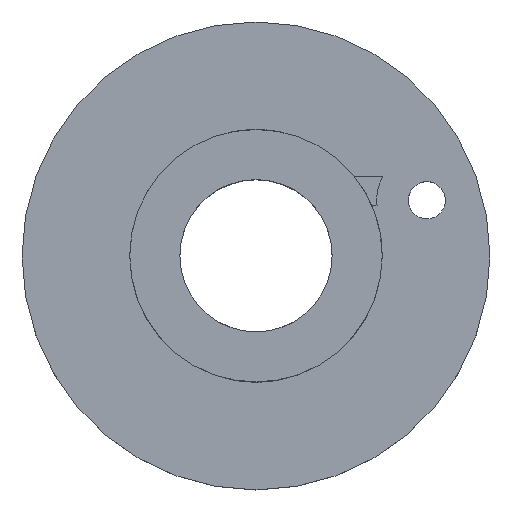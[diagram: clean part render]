
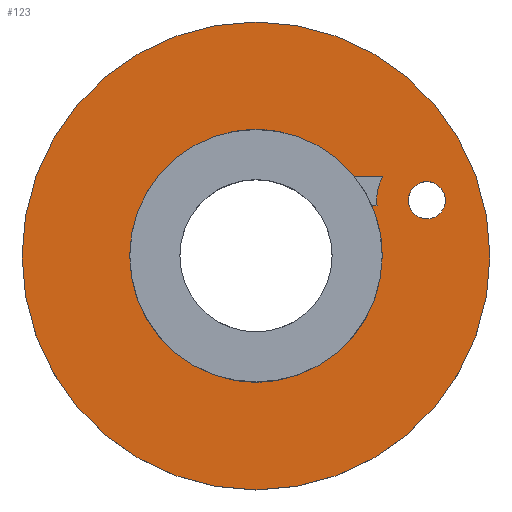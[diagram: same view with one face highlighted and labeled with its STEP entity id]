
A CAD part, top view. The second image highlights one B-rep face of the part: STEP entity #123.
In plain terms, the highlighted planar face has unit normal (0, 0, 1).
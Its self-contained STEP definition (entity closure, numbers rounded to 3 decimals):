
#39 = EDGE_CURVE('',#40,#40,#42,.T.);
#40 = VERTEX_POINT('',#41);
#41 = CARTESIAN_POINT('',(12.6,0.,-0.1));
#42 = SURFACE_CURVE('',#43,(#48,#60),.PCURVE_S1.);
#43 = CIRCLE('',#44,12.6);
#44 = AXIS2_PLACEMENT_3D('',#45,#46,#47);
#45 = CARTESIAN_POINT('',(0.,0.,-0.1));
#46 = DIRECTION('',(0.,0.,1.));
#47 = DIRECTION('',(1.,0.,-0.));
#48 = PCURVE('',#49,#54);
#49 = CYLINDRICAL_SURFACE('',#50,12.6);
#50 = AXIS2_PLACEMENT_3D('',#51,#52,#53);
#51 = CARTESIAN_POINT('',(0.,0.,-2.5));
#52 = DIRECTION('',(0.,0.,1.));
#53 = DIRECTION('',(1.,0.,-0.));
#54 = DEFINITIONAL_REPRESENTATION('',(#55),#59);
#55 = LINE('',#56,#57);
#56 = CARTESIAN_POINT('',(0.,2.4));
#57 = VECTOR('',#58,1.);
#58 = DIRECTION('',(1.,0.));
#59 = ( GEOMETRIC_REPRESENTATION_CONTEXT(2) 
PARAMETRIC_REPRESENTATION_CONTEXT() REPRESENTATION_CONTEXT('2D SPACE',''
  ) );
#60 = PCURVE('',#61,#66);
#61 = PLANE('',#62);
#62 = AXIS2_PLACEMENT_3D('',#63,#64,#65);
#63 = CARTESIAN_POINT('',(0.,0.,-0.1));
#64 = DIRECTION('',(0.,0.,1.));
#65 = DIRECTION('',(1.,0.,-0.));
#66 = DEFINITIONAL_REPRESENTATION('',(#67),#71);
#67 = CIRCLE('',#68,12.6);
#68 = AXIS2_PLACEMENT_2D('',#69,#70);
#69 = CARTESIAN_POINT('',(0.,0.));
#70 = DIRECTION('',(1.,0.));
#71 = ( GEOMETRIC_REPRESENTATION_CONTEXT(2) 
PARAMETRIC_REPRESENTATION_CONTEXT() REPRESENTATION_CONTEXT('2D SPACE',''
  ) );
#123 = ADVANCED_FACE('',(#124,#127,#267),#61,.T.);
#124 = FACE_BOUND('',#125,.T.);
#125 = EDGE_LOOP('',(#126));
#126 = ORIENTED_EDGE('',*,*,#39,.T.);
#127 = FACE_BOUND('',#128,.T.);
#128 = EDGE_LOOP('',(#129,#160,#184,#212,#241));
#129 = ORIENTED_EDGE('',*,*,#130,.F.);
#130 = EDGE_CURVE('',#131,#133,#135,.T.);
#131 = VERTEX_POINT('',#132);
#132 = CARTESIAN_POINT('',(6.8,0.,-0.1));
#133 = VERTEX_POINT('',#134);
#134 = CARTESIAN_POINT('',(6.241,2.7,-0.1));
#135 = SURFACE_CURVE('',#136,(#141,#148),.PCURVE_S1.);
#136 = CIRCLE('',#137,6.8);
#137 = AXIS2_PLACEMENT_3D('',#138,#139,#140);
#138 = CARTESIAN_POINT('',(0.,0.,-0.1));
#139 = DIRECTION('',(0.,0.,1.));
#140 = DIRECTION('',(1.,0.,-0.));
#141 = PCURVE('',#61,#142);
#142 = DEFINITIONAL_REPRESENTATION('',(#143),#147);
#143 = CIRCLE('',#144,6.8);
#144 = AXIS2_PLACEMENT_2D('',#145,#146);
#145 = CARTESIAN_POINT('',(0.,0.));
#146 = DIRECTION('',(1.,0.));
#147 = ( GEOMETRIC_REPRESENTATION_CONTEXT(2) 
PARAMETRIC_REPRESENTATION_CONTEXT() REPRESENTATION_CONTEXT('2D SPACE',''
  ) );
#148 = PCURVE('',#149,#154);
#149 = CYLINDRICAL_SURFACE('',#150,6.8);
#150 = AXIS2_PLACEMENT_3D('',#151,#152,#153);
#151 = CARTESIAN_POINT('',(0.,0.,-2.5));
#152 = DIRECTION('',(0.,0.,1.));
#153 = DIRECTION('',(1.,0.,-0.));
#154 = DEFINITIONAL_REPRESENTATION('',(#155),#159);
#155 = LINE('',#156,#157);
#156 = CARTESIAN_POINT('',(0.,2.4));
#157 = VECTOR('',#158,1.);
#158 = DIRECTION('',(1.,0.));
#159 = ( GEOMETRIC_REPRESENTATION_CONTEXT(2) 
PARAMETRIC_REPRESENTATION_CONTEXT() REPRESENTATION_CONTEXT('2D SPACE',''
  ) );
#160 = ORIENTED_EDGE('',*,*,#161,.F.);
#161 = EDGE_CURVE('',#162,#131,#164,.T.);
#162 = VERTEX_POINT('',#163);
#163 = CARTESIAN_POINT('',(5.268,4.3,-0.1));
#164 = SURFACE_CURVE('',#165,(#170,#177),.PCURVE_S1.);
#165 = CIRCLE('',#166,6.8);
#166 = AXIS2_PLACEMENT_3D('',#167,#168,#169);
#167 = CARTESIAN_POINT('',(0.,0.,-0.1));
#168 = DIRECTION('',(0.,0.,1.));
#169 = DIRECTION('',(1.,0.,-0.));
#170 = PCURVE('',#61,#171);
#171 = DEFINITIONAL_REPRESENTATION('',(#172),#176);
#172 = CIRCLE('',#173,6.8);
#173 = AXIS2_PLACEMENT_2D('',#174,#175);
#174 = CARTESIAN_POINT('',(0.,0.));
#175 = DIRECTION('',(1.,0.));
#176 = ( GEOMETRIC_REPRESENTATION_CONTEXT(2) 
PARAMETRIC_REPRESENTATION_CONTEXT() REPRESENTATION_CONTEXT('2D SPACE',''
  ) );
#177 = PCURVE('',#149,#178);
#178 = DEFINITIONAL_REPRESENTATION('',(#179),#183);
#179 = LINE('',#180,#181);
#180 = CARTESIAN_POINT('',(0.,2.4));
#181 = VECTOR('',#182,1.);
#182 = DIRECTION('',(1.,0.));
#183 = ( GEOMETRIC_REPRESENTATION_CONTEXT(2) 
PARAMETRIC_REPRESENTATION_CONTEXT() REPRESENTATION_CONTEXT('2D SPACE',''
  ) );
#184 = ORIENTED_EDGE('',*,*,#185,.T.);
#185 = EDGE_CURVE('',#162,#186,#188,.T.);
#186 = VERTEX_POINT('',#187);
#187 = CARTESIAN_POINT('',(6.834,4.3,-0.1));
#188 = SURFACE_CURVE('',#189,(#193,#200),.PCURVE_S1.);
#189 = LINE('',#190,#191);
#190 = CARTESIAN_POINT('',(2.5,4.3,-0.1));
#191 = VECTOR('',#192,1.);
#192 = DIRECTION('',(1.,0.,0.));
#193 = PCURVE('',#61,#194);
#194 = DEFINITIONAL_REPRESENTATION('',(#195),#199);
#195 = LINE('',#196,#197);
#196 = CARTESIAN_POINT('',(2.5,4.3));
#197 = VECTOR('',#198,1.);
#198 = DIRECTION('',(1.,0.));
#199 = ( GEOMETRIC_REPRESENTATION_CONTEXT(2) 
PARAMETRIC_REPRESENTATION_CONTEXT() REPRESENTATION_CONTEXT('2D SPACE',''
  ) );
#200 = PCURVE('',#201,#206);
#201 = PLANE('',#202);
#202 = AXIS2_PLACEMENT_3D('',#203,#204,#205);
#203 = CARTESIAN_POINT('',(5.,4.3,1.4));
#204 = DIRECTION('',(0.,-1.,0.));
#205 = DIRECTION('',(1.,0.,0.));
#206 = DEFINITIONAL_REPRESENTATION('',(#207),#211);
#207 = LINE('',#208,#209);
#208 = CARTESIAN_POINT('',(-2.5,-1.5));
#209 = VECTOR('',#210,1.);
#210 = DIRECTION('',(1.,0.));
#211 = ( GEOMETRIC_REPRESENTATION_CONTEXT(2) 
PARAMETRIC_REPRESENTATION_CONTEXT() REPRESENTATION_CONTEXT('2D SPACE',''
  ) );
#212 = ORIENTED_EDGE('',*,*,#213,.T.);
#213 = EDGE_CURVE('',#186,#214,#216,.T.);
#214 = VERTEX_POINT('',#215);
#215 = CARTESIAN_POINT('',(6.517,2.7,-0.1));
#216 = SURFACE_CURVE('',#217,(#222,#229),.PCURVE_S1.);
#217 = CIRCLE('',#218,2.7);
#218 = AXIS2_PLACEMENT_3D('',#219,#220,#221);
#219 = CARTESIAN_POINT('',(9.2,3.,-0.1));
#220 = DIRECTION('',(0.,0.,1.));
#221 = DIRECTION('',(1.,0.,-0.));
#222 = PCURVE('',#61,#223);
#223 = DEFINITIONAL_REPRESENTATION('',(#224),#228);
#224 = CIRCLE('',#225,2.7);
#225 = AXIS2_PLACEMENT_2D('',#226,#227);
#226 = CARTESIAN_POINT('',(9.2,3.));
#227 = DIRECTION('',(1.,0.));
#228 = ( GEOMETRIC_REPRESENTATION_CONTEXT(2) 
PARAMETRIC_REPRESENTATION_CONTEXT() REPRESENTATION_CONTEXT('2D SPACE',''
  ) );
#229 = PCURVE('',#230,#235);
#230 = CYLINDRICAL_SURFACE('',#231,2.7);
#231 = AXIS2_PLACEMENT_3D('',#232,#233,#234);
#232 = CARTESIAN_POINT('',(9.2,3.,1.4));
#233 = DIRECTION('',(0.,0.,1.));
#234 = DIRECTION('',(1.,0.,-0.));
#235 = DEFINITIONAL_REPRESENTATION('',(#236),#240);
#236 = LINE('',#237,#238);
#237 = CARTESIAN_POINT('',(0.,-1.5));
#238 = VECTOR('',#239,1.);
#239 = DIRECTION('',(1.,0.));
#240 = ( GEOMETRIC_REPRESENTATION_CONTEXT(2) 
PARAMETRIC_REPRESENTATION_CONTEXT() REPRESENTATION_CONTEXT('2D SPACE',''
  ) );
#241 = ORIENTED_EDGE('',*,*,#242,.F.);
#242 = EDGE_CURVE('',#133,#214,#243,.T.);
#243 = SURFACE_CURVE('',#244,(#248,#255),.PCURVE_S1.);
#244 = LINE('',#245,#246);
#245 = CARTESIAN_POINT('',(2.5,2.7,-0.1));
#246 = VECTOR('',#247,1.);
#247 = DIRECTION('',(1.,0.,0.));
#248 = PCURVE('',#61,#249);
#249 = DEFINITIONAL_REPRESENTATION('',(#250),#254);
#250 = LINE('',#251,#252);
#251 = CARTESIAN_POINT('',(2.5,2.7));
#252 = VECTOR('',#253,1.);
#253 = DIRECTION('',(1.,0.));
#254 = ( GEOMETRIC_REPRESENTATION_CONTEXT(2) 
PARAMETRIC_REPRESENTATION_CONTEXT() REPRESENTATION_CONTEXT('2D SPACE',''
  ) );
#255 = PCURVE('',#256,#261);
#256 = PLANE('',#257);
#257 = AXIS2_PLACEMENT_3D('',#258,#259,#260);
#258 = CARTESIAN_POINT('',(5.,2.7,1.4));
#259 = DIRECTION('',(0.,-1.,0.));
#260 = DIRECTION('',(1.,0.,0.));
#261 = DEFINITIONAL_REPRESENTATION('',(#262),#266);
#262 = LINE('',#263,#264);
#263 = CARTESIAN_POINT('',(-2.5,-1.5));
#264 = VECTOR('',#265,1.);
#265 = DIRECTION('',(1.,0.));
#266 = ( GEOMETRIC_REPRESENTATION_CONTEXT(2) 
PARAMETRIC_REPRESENTATION_CONTEXT() REPRESENTATION_CONTEXT('2D SPACE',''
  ) );
#267 = FACE_BOUND('',#268,.T.);
#268 = EDGE_LOOP('',(#269));
#269 = ORIENTED_EDGE('',*,*,#270,.F.);
#270 = EDGE_CURVE('',#271,#271,#273,.T.);
#271 = VERTEX_POINT('',#272);
#272 = CARTESIAN_POINT('',(10.2,3.,-0.1));
#273 = SURFACE_CURVE('',#274,(#279,#286),.PCURVE_S1.);
#274 = CIRCLE('',#275,1.);
#275 = AXIS2_PLACEMENT_3D('',#276,#277,#278);
#276 = CARTESIAN_POINT('',(9.2,3.,-0.1));
#277 = DIRECTION('',(0.,0.,1.));
#278 = DIRECTION('',(1.,0.,-0.));
#279 = PCURVE('',#61,#280);
#280 = DEFINITIONAL_REPRESENTATION('',(#281),#285);
#281 = CIRCLE('',#282,1.);
#282 = AXIS2_PLACEMENT_2D('',#283,#284);
#283 = CARTESIAN_POINT('',(9.2,3.));
#284 = DIRECTION('',(1.,0.));
#285 = ( GEOMETRIC_REPRESENTATION_CONTEXT(2) 
PARAMETRIC_REPRESENTATION_CONTEXT() REPRESENTATION_CONTEXT('2D SPACE',''
  ) );
#286 = PCURVE('',#287,#292);
#287 = CYLINDRICAL_SURFACE('',#288,1.);
#288 = AXIS2_PLACEMENT_3D('',#289,#290,#291);
#289 = CARTESIAN_POINT('',(9.2,3.,-5.));
#290 = DIRECTION('',(0.,0.,1.));
#291 = DIRECTION('',(1.,0.,-0.));
#292 = DEFINITIONAL_REPRESENTATION('',(#293),#297);
#293 = LINE('',#294,#295);
#294 = CARTESIAN_POINT('',(0.,4.9));
#295 = VECTOR('',#296,1.);
#296 = DIRECTION('',(1.,0.));
#297 = ( GEOMETRIC_REPRESENTATION_CONTEXT(2) 
PARAMETRIC_REPRESENTATION_CONTEXT() REPRESENTATION_CONTEXT('2D SPACE',''
  ) );
